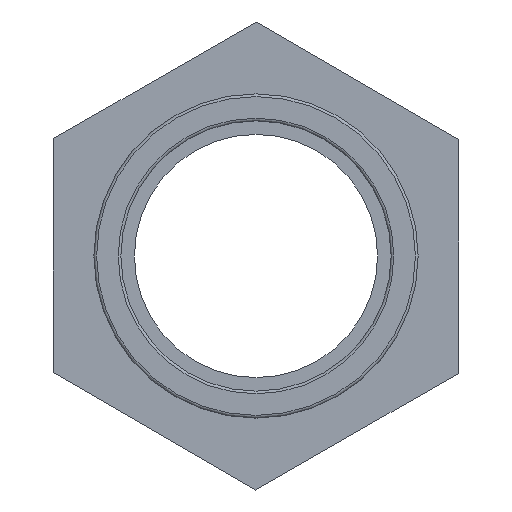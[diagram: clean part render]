
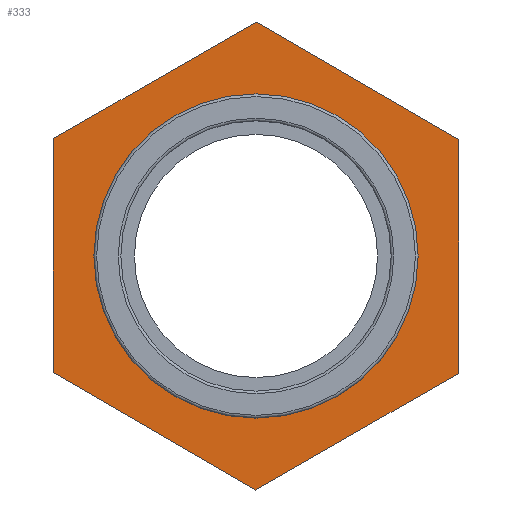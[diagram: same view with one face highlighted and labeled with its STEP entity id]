
A CAD part, left-side view. The second image highlights one B-rep face of the part: STEP entity #333.
In plain terms, the highlighted planar face has unit normal (-1, 0, 0).
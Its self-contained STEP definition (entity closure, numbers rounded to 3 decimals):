
#17=LINE('',#517,#35);
#21=LINE('',#525,#39);
#24=LINE('',#531,#42);
#27=LINE('',#538,#45);
#31=LINE('',#545,#49);
#33=LINE('',#548,#51);
#35=VECTOR('',#425,17.321);
#39=VECTOR('',#431,17.321);
#42=VECTOR('',#436,17.321);
#45=VECTOR('',#441,17.321);
#49=VECTOR('',#447,17.321);
#51=VECTOR('',#451,17.321);
#70=PLANE('',#376);
#88=FACE_BOUND('',#154,.T.);
#112=FACE_OUTER_BOUND('',#153,.T.);
#153=EDGE_LOOP('',(#299,#300,#301,#302,#303,#304));
#154=EDGE_LOOP('',(#305));
#166=CIRCLE('',#357,12.);
#183=VERTEX_POINT('',#512);
#184=VERTEX_POINT('',#515);
#185=VERTEX_POINT('',#516);
#188=VERTEX_POINT('',#524);
#190=VERTEX_POINT('',#530);
#192=VERTEX_POINT('',#536);
#193=VERTEX_POINT('',#537);
#212=EDGE_CURVE('',#183,#183,#166,.T.);
#213=EDGE_CURVE('',#184,#185,#17,.T.);
#217=EDGE_CURVE('',#185,#188,#21,.T.);
#220=EDGE_CURVE('',#188,#190,#24,.T.);
#223=EDGE_CURVE('',#192,#193,#27,.T.);
#227=EDGE_CURVE('',#193,#184,#31,.T.);
#229=EDGE_CURVE('',#190,#192,#33,.T.);
#299=ORIENTED_EDGE('',*,*,#227,.F.);
#300=ORIENTED_EDGE('',*,*,#223,.F.);
#301=ORIENTED_EDGE('',*,*,#229,.F.);
#302=ORIENTED_EDGE('',*,*,#220,.F.);
#303=ORIENTED_EDGE('',*,*,#217,.F.);
#304=ORIENTED_EDGE('',*,*,#213,.F.);
#305=ORIENTED_EDGE('',*,*,#212,.F.);
#333=ADVANCED_FACE('',(#112,#88),#70,.T.);
#357=AXIS2_PLACEMENT_3D('',#513,#421,#422);
#376=AXIS2_PLACEMENT_3D('',#567,#477,#478);
#421=DIRECTION('center_axis',(-1.,0.,0.));
#422=DIRECTION('ref_axis',(0.,0.,1.));
#425=DIRECTION('',(0.,0.003,-1.));
#431=DIRECTION('',(0.,0.867,-0.498));
#436=DIRECTION('',(0.,0.865,0.502));
#441=DIRECTION('',(0.,-0.867,0.498));
#447=DIRECTION('',(0.,-0.865,-0.502));
#451=DIRECTION('',(0.,-0.003,1.));
#477=DIRECTION('center_axis',(-1.,0.,0.));
#478=DIRECTION('ref_axis',(0.,0.,1.));
#512=CARTESIAN_POINT('',(-5.9,-12.,0.));
#513=CARTESIAN_POINT('Origin',(-5.9,0.,0.));
#515=CARTESIAN_POINT('',(-5.9,-15.024,8.619));
#516=CARTESIAN_POINT('',(-5.9,-14.976,-8.702));
#517=CARTESIAN_POINT('',(-5.9,-14.988,-4.372));
#524=CARTESIAN_POINT('',(-5.9,0.048,-17.32));
#525=CARTESIAN_POINT('',(-5.9,-3.708,-15.166));
#530=CARTESIAN_POINT('',(-5.9,15.024,-8.619));
#531=CARTESIAN_POINT('',(-5.9,11.28,-10.794));
#536=CARTESIAN_POINT('',(-5.9,14.976,8.702));
#537=CARTESIAN_POINT('',(-5.9,-0.048,17.32));
#538=CARTESIAN_POINT('',(-5.9,3.708,15.166));
#545=CARTESIAN_POINT('',(-5.9,-11.28,10.794));
#548=CARTESIAN_POINT('',(-5.9,15.,0.042));
#567=CARTESIAN_POINT('Origin',(-5.9,-12.,0.));
